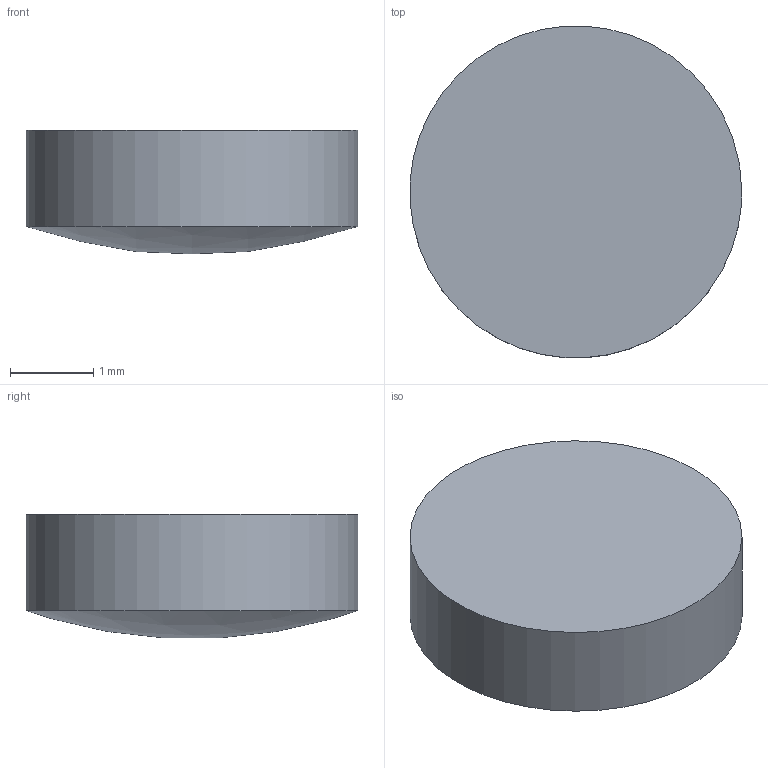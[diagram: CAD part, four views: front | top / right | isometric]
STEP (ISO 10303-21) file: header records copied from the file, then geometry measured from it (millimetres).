
FILE_DESCRIPTION ((), '1');
FILE_NAME ('C:\Users\r.sato\Desktop\<', '2016-12-19T19:07:22', ('Unknown'), ('Unknown'), 'HarmonyWare STEP v1.9.13', 'HarmonyWare Translators', '');
FILE_SCHEMA (('CONFIG_CONTROL_DESIGN'));
Length unit declared in the file: millimetre
Products named in the file (1): NONE
Bounding box: 4 x 3.99 x 1.49 mm (x, y, z)
Volume: 16.7 mm3; surface area: 40.1 mm2
Topology: 1 solids, 1 shells, 3 faces, 3 edges, 2 vertices
Faces by surface type: sphere 1, plane 1, cylinder 1
Full cylindrical faces by diameter (mm): 4 x1
Entity records: 151 total; most frequent: CARTESIAN_POINT 25, PERSON 8, ORGANIZATION 8, PERSON_AND_ORGANIZATION 8, ORIENTED_EDGE 6, DIRECTION 6, PERSON_AND_ORGANIZATION_ROLE 5, CC_DESIGN_PERSON_AND_ORGANIZATION_ASSIGNMENT 5
